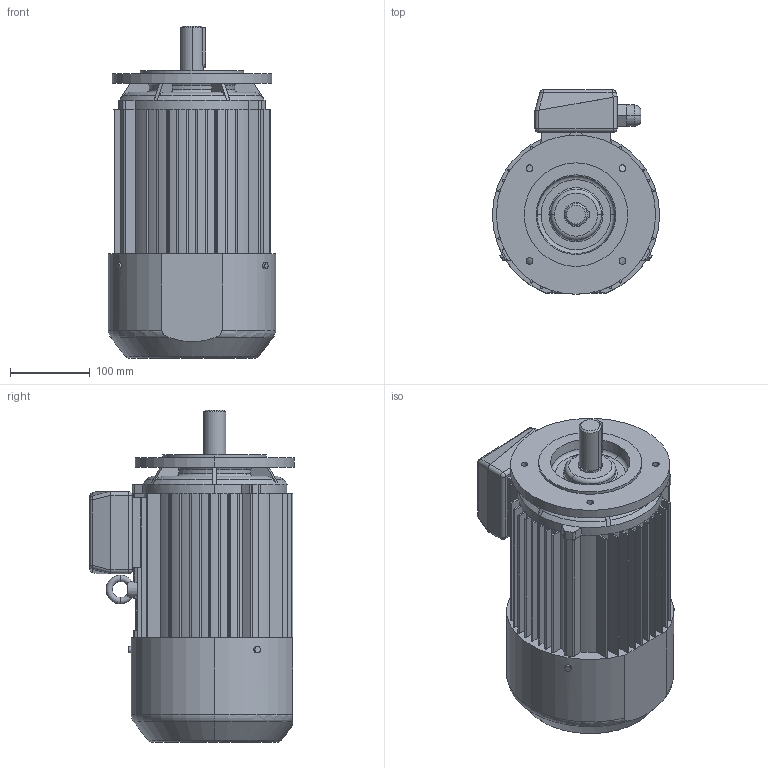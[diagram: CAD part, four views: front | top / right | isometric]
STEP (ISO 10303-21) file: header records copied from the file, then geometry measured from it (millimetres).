
FILE_DESCRIPTION (( 'STEP AP203' ), '1' );
FILE_NAME ('3SIEK100L4A,4B-B14-C1.STEP', '2016-02-08T12:14:25', ( 'Indukta' ), ( 'Celma Indukta S.A.' ), 'SwSTEP 2.0', 'SolidWorks 2003064', '' );
FILE_SCHEMA (( 'CONFIG_CONTROL_DESIGN' ));
Length unit declared in the file: millimetre
Products named in the file (1): 3SIEK100L4A,4B-B14-C1
Bounding box: 210 x 257 x 417 mm (x, y, z)
Volume: 10836123.7 mm3; surface area: 503837.7 mm2
Topology: 1 solids, 1 shells, 625 faces, 1672 edges, 1061 vertices
Faces by surface type: plane 315, cylinder 161, bspline 78, torus 43, cone 20, sphere 8
Entity records: 26310 total; most frequent: CARTESIAN_POINT 11029, ORIENTED_EDGE 3328, DIRECTION 2978, EDGE_CURVE 1664, VERTEX_POINT 1061, AXIS2_PLACEMENT_3D 1036, LINE 906, VECTOR 906
